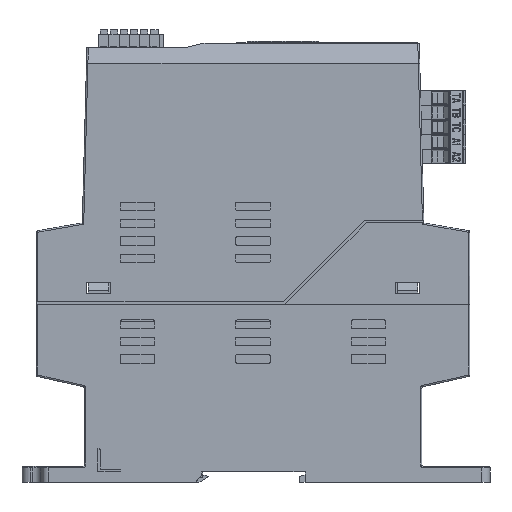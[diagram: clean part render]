
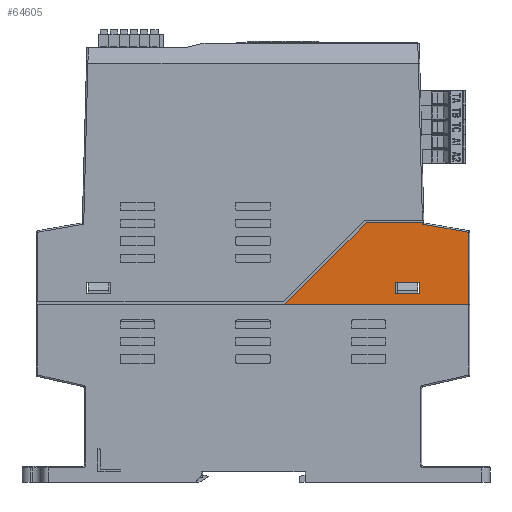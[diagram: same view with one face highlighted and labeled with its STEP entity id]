
A CAD part, left-side view. The second image highlights one B-rep face of the part: STEP entity #64605.
In plain terms, the highlighted planar face has unit normal (-1, 0, 0).
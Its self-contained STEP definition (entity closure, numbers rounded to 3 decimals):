
#988 = EDGE_CURVE ( 'NONE', #18803, #14078, #58682, .T. ) ;
#3339 = VECTOR ( 'NONE', #143372, 1000. ) ;
#4195 = CARTESIAN_POINT ( 'NONE',  ( -27.5, -58.633, 95.658 ) ) ;
#5662 = CARTESIAN_POINT ( 'NONE',  ( -27.5, 75., 0. ) ) ;
#10892 = ORIENTED_EDGE ( 'NONE', *, *, #131926, .T. ) ;
#13887 = CARTESIAN_POINT ( 'NONE',  ( -27.5, -49.4, 0. ) ) ;
#14078 = VERTEX_POINT ( 'NONE', #142163 ) ;
#15072 = B_SPLINE_CURVE_WITH_KNOTS ( 'NONE', 3,
 ( #72068, #4195, #18474, #72931 ),
 .UNSPECIFIED., .F., .F.,
 ( 4, 4 ),
 ( 0., 1. ),
 .UNSPECIFIED. ) ;
#18474 = CARTESIAN_POINT ( 'NONE',  ( -27.5, -58.637, 95.518 ) ) ;
#18803 = VERTEX_POINT ( 'NONE', #47408 ) ;
#21690 = VECTOR ( 'NONE', #93306, 1000. ) ;
#25057 = VERTEX_POINT ( 'NONE', #78080 ) ;
#25968 = CARTESIAN_POINT ( 'NONE',  ( -27.5, -57.6, 71.3 ) ) ;
#28165 = VECTOR ( 'NONE', #139847, 1000. ) ;
#29688 = CARTESIAN_POINT ( 'NONE',  ( -27.5, -101.303, 67.5 ) ) ;
#31080 = LINE ( 'NONE', #150684, #151533 ) ;
#33651 = CARTESIAN_POINT ( 'NONE',  ( -27.5, -74.5, 92.581 ) ) ;
#33842 = AXIS2_PLACEMENT_3D ( 'NONE', #5662, #46737, #48464 ) ;
#34152 = ORIENTED_EDGE ( 'NONE', *, *, #988, .T. ) ;
#34445 = CARTESIAN_POINT ( 'NONE',  ( -27.5, -49.4, 75.2 ) ) ;
#45662 = VECTOR ( 'NONE', #147295, 1000. ) ;
#46737 = DIRECTION ( 'NONE',  ( -1., 0., 0. ) ) ;
#47408 = CARTESIAN_POINT ( 'NONE',  ( -27.5, -74.5, 67.5 ) ) ;
#48464 = DIRECTION ( 'NONE',  ( 0., 0., 1. ) ) ;
#49170 = EDGE_CURVE ( 'NONE', #25057, #109446, #149545, .T. ) ;
#52155 = EDGE_CURVE ( 'NONE', #146361, #18803, #69882, .T. ) ;
#53413 = ORIENTED_EDGE ( 'NONE', *, *, #49170, .T. ) ;
#54026 = CARTESIAN_POINT ( 'NONE',  ( -27.5, 75., 71.3 ) ) ;
#56639 = VERTEX_POINT ( 'NONE', #138294 ) ;
#58682 = LINE ( 'NONE', #94664, #28165 ) ;
#60508 = ORIENTED_EDGE ( 'NONE', *, *, #88900, .T. ) ;
#64000 = CARTESIAN_POINT ( 'NONE',  ( -27.5, 75., 95.799 ) ) ;
#64605 = ADVANCED_FACE ( 'NONE', ( #154704, #127881 ), #168943, .T. ) ;
#68164 = LINE ( 'NONE', #64000, #113312 ) ;
#68375 = DIRECTION ( 'NONE',  ( 0., 0., 1. ) ) ;
#69882 = LINE ( 'NONE', #29688, #80669 ) ;
#72068 = CARTESIAN_POINT ( 'NONE',  ( -27.5, -58.629, 95.799 ) ) ;
#72476 = ORIENTED_EDGE ( 'NONE', *, *, #137261, .F. ) ;
#72931 = CARTESIAN_POINT ( 'NONE',  ( -27.5, -58.64, 95.378 ) ) ;
#78080 = CARTESIAN_POINT ( 'NONE',  ( -27.5, -49.4, 71.3 ) ) ;
#78642 = LINE ( 'NONE', #82143, #45662 ) ;
#80669 = VECTOR ( 'NONE', #124246, 1000. ) ;
#81330 = VERTEX_POINT ( 'NONE', #85976 ) ;
#82143 = CARTESIAN_POINT ( 'NONE',  ( -27.5, -39.129, 95.799 ) ) ;
#83095 = VECTOR ( 'NONE', #68375, 1000. ) ;
#84985 = ORIENTED_EDGE ( 'NONE', *, *, #52155, .T. ) ;
#85976 = CARTESIAN_POINT ( 'NONE',  ( -27.5, -58.629, 95.799 ) ) ;
#87075 = EDGE_CURVE ( 'NONE', #56639, #146361, #78642, .T. ) ;
#88900 = EDGE_CURVE ( 'NONE', #128791, #96014, #168382, .T. ) ;
#88922 = EDGE_CURVE ( 'NONE', #14078, #118407, #157654, .T. ) ;
#91636 = VECTOR ( 'NONE', #117475, 1000. ) ;
#93306 = DIRECTION ( 'NONE',  ( 0., 1., 0. ) ) ;
#94664 = CARTESIAN_POINT ( 'NONE',  ( -27.5, -74.5, 67.5 ) ) ;
#96014 = VERTEX_POINT ( 'NONE', #25968 ) ;
#98873 = DIRECTION ( 'NONE',  ( 0., -1., 0. ) ) ;
#102310 = CARTESIAN_POINT ( 'NONE',  ( -27.5, -57.6, 0. ) ) ;
#109446 = VERTEX_POINT ( 'NONE', #34445 ) ;
#112829 = EDGE_LOOP ( 'NONE', ( #141342, #140999, #84985, #34152, #115009, #72476 ) ) ;
#113312 = VECTOR ( 'NONE', #132644, 1000. ) ;
#115009 = ORIENTED_EDGE ( 'NONE', *, *, #88922, .T. ) ;
#117475 = DIRECTION ( 'NONE',  ( 0., 0.985, 0.174 ) ) ;
#118407 = VERTEX_POINT ( 'NONE', #163844 ) ;
#120667 = EDGE_LOOP ( 'NONE', ( #163640, #60508, #10892, #53413 ) ) ;
#123386 = EDGE_CURVE ( 'NONE', #109446, #128791, #31080, .T. ) ;
#124246 = DIRECTION ( 'NONE',  ( 0., -1., 0. ) ) ;
#126700 = CARTESIAN_POINT ( 'NONE',  ( -27.5, -10.83, 67.5 ) ) ;
#127881 = FACE_OUTER_BOUND ( 'NONE', #112829, .T. ) ;
#128791 = VERTEX_POINT ( 'NONE', #151318 ) ;
#131926 = EDGE_CURVE ( 'NONE', #96014, #25057, #176251, .T. ) ;
#132644 = DIRECTION ( 'NONE',  ( 0., 1., 0. ) ) ;
#137261 = EDGE_CURVE ( 'NONE', #81330, #118407, #15072, .T. ) ;
#138294 = CARTESIAN_POINT ( 'NONE',  ( -27.5, -39.129, 95.799 ) ) ;
#139847 = DIRECTION ( 'NONE',  ( 0., 0., 1. ) ) ;
#140999 = ORIENTED_EDGE ( 'NONE', *, *, #87075, .T. ) ;
#141342 = ORIENTED_EDGE ( 'NONE', *, *, #171948, .T. ) ;
#142163 = CARTESIAN_POINT ( 'NONE',  ( -27.5, -74.5, 92.581 ) ) ;
#143372 = DIRECTION ( 'NONE',  ( 0., 0., -1. ) ) ;
#146361 = VERTEX_POINT ( 'NONE', #126700 ) ;
#147295 = DIRECTION ( 'NONE',  ( 0., 0.707, -0.707 ) ) ;
#149545 = LINE ( 'NONE', #13887, #83095 ) ;
#150684 = CARTESIAN_POINT ( 'NONE',  ( -27.5, 75., 75.2 ) ) ;
#151318 = CARTESIAN_POINT ( 'NONE',  ( -27.5, -57.6, 75.2 ) ) ;
#151533 = VECTOR ( 'NONE', #98873, 1000. ) ;
#154704 = FACE_BOUND ( 'NONE', #120667, .T. ) ;
#157654 = LINE ( 'NONE', #33651, #91636 ) ;
#163640 = ORIENTED_EDGE ( 'NONE', *, *, #123386, .T. ) ;
#163844 = CARTESIAN_POINT ( 'NONE',  ( -27.5, -58.64, 95.378 ) ) ;
#168382 = LINE ( 'NONE', #102310, #3339 ) ;
#168943 = PLANE ( 'NONE',  #33842 ) ;
#171948 = EDGE_CURVE ( 'NONE', #81330, #56639, #68164, .T. ) ;
#176251 = LINE ( 'NONE', #54026, #21690 ) ;
